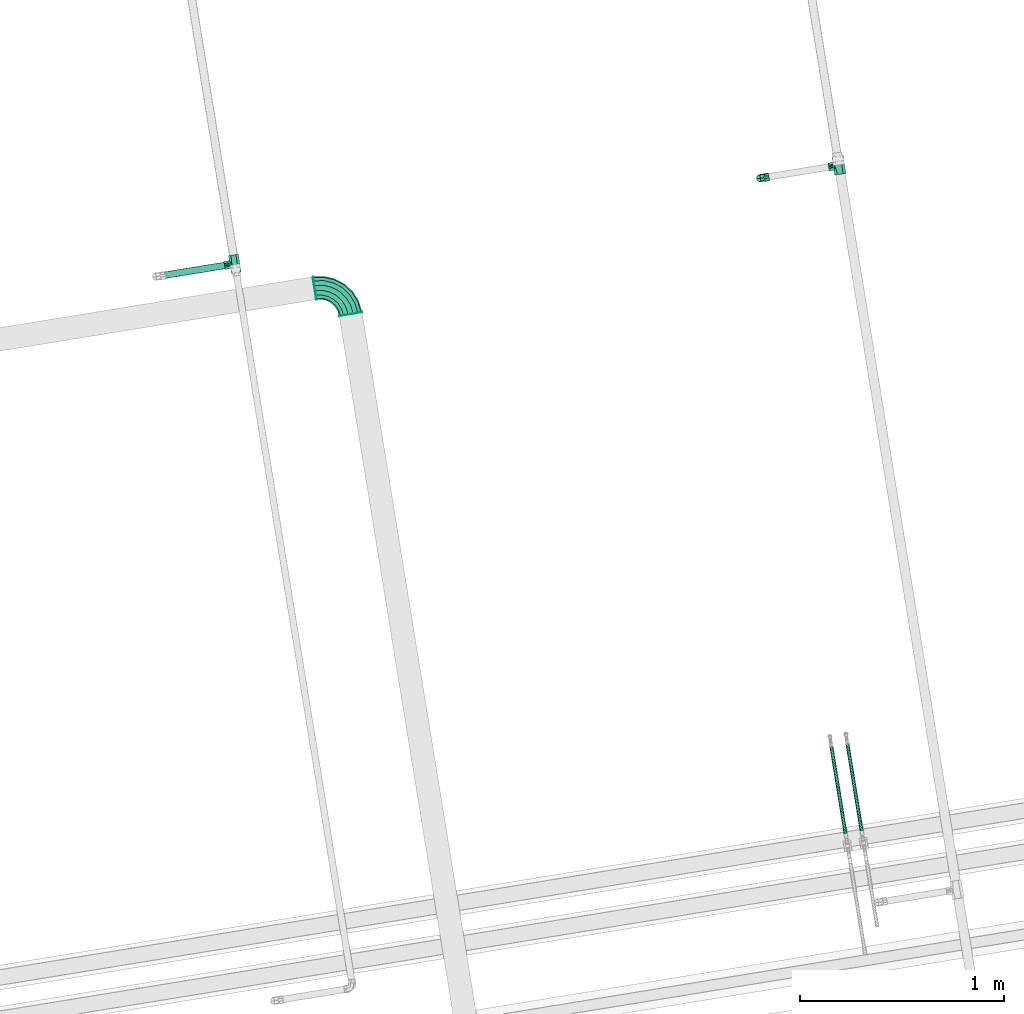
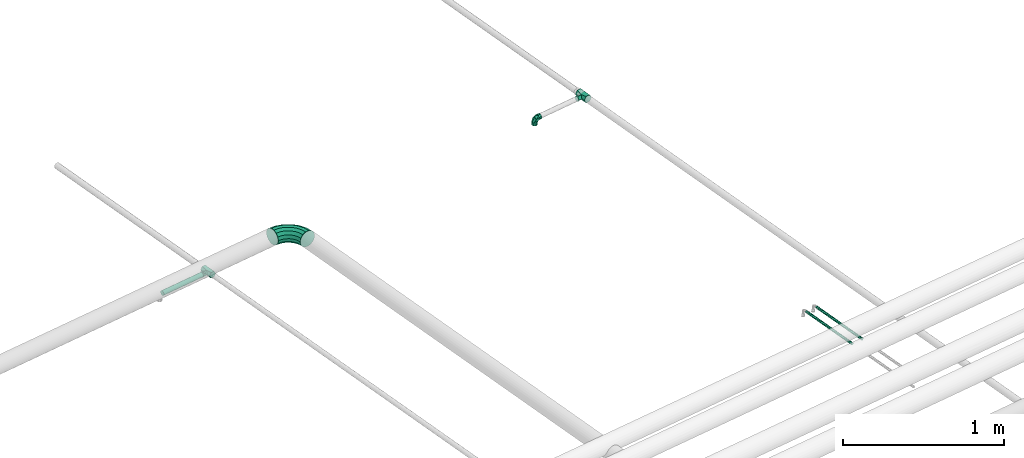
# One storey, part 25 of 56: 6 flow fittings, 3 flow segments.
"""IFC2X3 building model written with IfcOpenShell, lengths in millimetres."""

from ifc_helpers import new_model, entity, si_unit, converted_unit, derived_unit, direction, frame, frame_2d, origin, origin_with_axes, origin_2d_with_axis, place, context, subcontext, project, spatial, circle, extrude, faceted_brep, source, transform, mapped, material, type_object, element, save


model = new_model("IFC2X3")

# Units and contexts
model_context = context("Model", 3, precision=0.01, world=origin(), true_north=direction((6.12323399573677e-17, 1.0)))
plan_context = context("Plan", 3, precision=1e-05, world=origin_with_axes())
body_context = subcontext(model_context, "Body", "Model", "MODEL_VIEW")
ifc_project = project(units=[converted_unit("PLANEANGLEUNIT", "DEGREE", entity("IfcPositiveLengthMeasure", 0.0174532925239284), si_unit("PLANEANGLEUNIT", "RADIAN"), dimensions=[0, 0, 0, 0, 0, 0, 0]), si_unit("AREAUNIT", "SQUARE_METRE"), si_unit("LENGTHUNIT", "METRE", prefix="MILLI"), si_unit("MASSUNIT", "GRAM", prefix="KILO"), si_unit("POWERUNIT", "WATT"), si_unit("PRESSUREUNIT", "PASCAL", prefix="KILO"), si_unit("FORCEUNIT", "NEWTON", prefix="KILO"), si_unit("ELECTRICVOLTAGEUNIT", "VOLT"), si_unit("ELECTRICCURRENTUNIT", "AMPERE"), si_unit("THERMODYNAMICTEMPERATUREUNIT", "DEGREE_CELSIUS"), si_unit("TIMEUNIT", "SECOND"), si_unit("VOLUMEUNIT", "CUBIC_METRE"), derived_unit("LINEARVELOCITYUNIT", [(si_unit("LENGTHUNIT", "METRE"), 1), (si_unit("TIMEUNIT", "SECOND"), -1)]), derived_unit("VOLUMETRICFLOWRATEUNIT", [(si_unit("VOLUMEUNIT", "CUBIC_METRE"), 1), (si_unit("TIMEUNIT", "SECOND"), -1)]), derived_unit("THERMALTRANSMITTANCEUNIT", [(si_unit("POWERUNIT", "WATT"), 1), (si_unit("THERMODYNAMICTEMPERATUREUNIT", "KELVIN"), -1), (si_unit("AREAUNIT", "SQUARE_METRE"), -1)]), derived_unit("SOUNDPRESSUREUNIT", [(si_unit("PRESSUREUNIT", "PASCAL"), 1)])], contexts=[model_context, plan_context])

# Site, building, storey
site_placement = place(None, frame((-3.09682673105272e-06, 1.93776733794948e-05, 0.0), z_axis=(0.0, 0.0, 1.0), x_axis=(-0.160806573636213, 0.986985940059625, 0.0)))
site = spatial("IfcSite", under=ifc_project, at=site_placement, Name="Default", CompositionType="ELEMENT")
building_placement = place(site_placement, frame((0.0, 0.0, 0.0), z_axis=(0.0, 0.0, 1.0), x_axis=(1.0, -2.77555756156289e-17, 0.0)))
building = spatial("IfcBuilding", under=site, at=building_placement, Name="Bygning (endres i Project Information)", CompositionType="ELEMENT")
storey_placement = place(building_placement, frame((0.0, 0.0, 51360.0000000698), z_axis=(0.0, 0.0, 1.0), x_axis=(1.0, -2.77555756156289e-17, 0.0)))
storey = spatial("IfcBuildingStorey", under=building, at=storey_placement, Name="H01-Nivå D+0,36", CompositionType="ELEMENT", Elevation=51360.0000000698)

# Flow fittings
ifc_material_1 = material(Name="3320.001")
pipe_fitting_type_1 = type_object("IfcPipeFittingType", Name="RS_53_PIF_UN_Tee-Reduced-EN10241_MC_gen:RS_53_PIF_UN_Tee-Reduced-EN10241_MC_gen", PredefinedType="NOTDEFINED", material=ifc_material_1)
shared_shape_1 = source(origin(), body_context, "Body", "Brep", [
    faceted_brep([(44.0, -28.0, 0.0), (44.0, -21.0, -12.124355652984), (44.0, -14.0, -24.2487113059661), (44.0, 0.0, -24.2487113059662), (44.0, 14.0, -24.2487113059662), (44.0, 21.0, -12.1243556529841), (44.0, 28.0, 0.0), (44.0, 21.0, 12.1243556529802), (44.0, 14.0, 24.2487113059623), (44.0, 0.0, 24.2487113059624), (44.0, -14.0, 24.2487113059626), (44.0, -21.0, 12.1243556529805), (-44.0, -28.0, 0.0), (-44.0, -21.0, 12.1243556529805), (-44.0, -14.0, 24.2487113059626), (-44.0, 0.0, 24.2487113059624), (-44.0, 14.0, 24.2487113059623), (-44.0, 21.0, 12.1243556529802), (-44.0, 28.0, 0.0), (-44.0, 20.982647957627, -12.1544102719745), (-44.0, 14.0, -24.2487113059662), (-44.0, 0.0, -24.2487113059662), (-44.0, -14.0, -24.2487113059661), (-44.0, -21.0, -12.124355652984), (3.55028427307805, -20.1628871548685, 19.4282778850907), (11.6501421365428, -24.0814435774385, 9.71413894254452), (-19.7499999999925, -28.0, 0.0), (-8.09985786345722, -24.0814435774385, 9.71413894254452), (19.7500000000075, -28.0, 0.0), (-11.6531711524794, -24.0819773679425, -9.71358493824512), (-3.55634230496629, -20.1639547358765, -19.4271698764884), (8.0968288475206, -24.0819773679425, -9.71358493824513), (9.87500000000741, -52.0, -17.1040017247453), (14.8125000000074, -52.0, -8.55200086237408), (19.7500000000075, -52.0, 0.0), (14.8125000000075, -52.0, 8.55200086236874), (9.87500000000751, -52.0, 17.1040017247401), (0.0, -52.0, 17.1040017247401), (-9.87499999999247, -52.0, 17.1040017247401), (-14.8124999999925, -52.0, 8.55200086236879), (-19.7499999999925, -52.0, 0.0), (-14.8124999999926, -52.0, -8.55200086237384), (-9.87499999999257, -52.0, -17.1040017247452), (0.0, -52.0, -17.1040017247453)], [[[0, 1, 2, 3, 4, 5, 6, 7, 8, 9, 10, 11]], [[12, 13, 14, 15, 16, 17, 18, 19, 20, 21, 22, 23]], [[7, 6, 18, 17, 16, 8]], [[8, 16, 15, 9]], [[15, 14, 24]], [[11, 24, 25]], [[24, 9, 15]], [[12, 26, 13]], [[13, 26, 27, 24]], [[0, 11, 25]], [[0, 25, 28]], [[24, 14, 13]], [[24, 11, 10]], [[9, 24, 10]], [[19, 18, 6, 5, 4, 20]], [[23, 29, 12]], [[30, 1, 28, 31]], [[23, 30, 29]], [[12, 29, 26]], [[1, 0, 28]], [[23, 22, 30]], [[21, 20, 4, 3]], [[30, 21, 3]], [[30, 3, 2]], [[30, 2, 1]], [[21, 30, 22]], [[32, 33, 34, 35, 36, 37, 38, 39, 40, 41, 42, 43]], [[26, 41, 40]], [[29, 42, 41]], [[31, 43, 30]], [[32, 31, 33]], [[30, 42, 29]], [[28, 33, 31]], [[31, 32, 43]], [[34, 33, 28]], [[43, 42, 30]], [[26, 29, 41]], [[28, 35, 34]], [[25, 36, 35]], [[27, 37, 24]], [[38, 27, 39]], [[24, 36, 25]], [[26, 39, 27]], [[27, 38, 37]], [[40, 39, 26]], [[37, 36, 24]], [[28, 25, 35]]]),
])
flow_fitting_1_placement = place(storey_placement, frame((1015158.93557438, -392336.905112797, 3200.0), z_axis=(0.0, 0.0, 1.0), x_axis=(-1.0, 2.77555756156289e-17, 0.0)))
element("IfcFlowFitting", 1, at=flow_fitting_1_placement, inside=storey, type_object=pipe_fitting_type_1, material=ifc_material_1, Name="RS_53_PIF_UN_Tee-Reduced-EN10241_MC_gen:RS_53_PIF_UN_Tee-Reduced-EN10241_MC_gen", ObjectType="RS_53_PIF_UN_Tee-Reduced-EN10241_MC_gen:RS_53_PIF_UN_Tee-Reduced-EN10241_MC_gen", context=body_context, shape_type="MappedRepresentation", body=[
    mapped(shared_shape_1, transform((0.0, 0.0, 0.0), scale=1.0)),
])
pipe_fitting_type_2 = type_object("IfcPipeFittingType", Name="RS_53_PIF_UN_Elbow-EN10241_NOR:RS_53_PIF_UN_Elbow-EN10241_NOR", PredefinedType="NOTDEFINED", material=ifc_material_1)
shared_shape_2 = source(origin(), body_context, "Body", "Brep", [
    faceted_brep([(-43.0, 5.11167614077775, 19.0770350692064), (-43.0, 17.1040017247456, 9.87499999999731), (-43.0, 19.7500000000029, 0.0), (-43.0, 17.1040017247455, -9.87500000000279), (-43.0, 5.11167614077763, -19.0770350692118), (-43.0, -5.11167614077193, -19.0770350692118), (-43.0, -17.1040017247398, -9.87500000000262), (-43.0, -19.7499999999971, 0.0), (-43.0, -17.1040017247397, 9.87499999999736), (-43.0, -5.11167614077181, 19.0770350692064), (-21.7499999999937, -19.7499999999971, 0.0), (-21.7499999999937, -15.1293510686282, -12.6950870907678), (-21.7499999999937, -3.42946974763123, -19.4499675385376), (-21.7499999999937, 15.1294711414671, -12.694943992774), (-21.7499999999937, 19.7500000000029, 0.0), (-21.7499999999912, 5.85000069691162, -16.072455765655), (-21.7499999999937, 15.1294711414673, 12.6949439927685), (-21.7499999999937, 3.42965371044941, 19.4499351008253), (-21.7499999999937, -15.1293510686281, 12.6950870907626), (-5.41688095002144, -10.3200693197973, 0.0), (0.655979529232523, -2.00253561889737, 16.4678355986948), (-11.0449015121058, 9.84579831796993, 18.897380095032), (-18.5589216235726, 21.7499999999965, 6.75491881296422), (-15.1293490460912, 21.7499999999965, 12.6950895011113), (-20.3357864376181, 20.3357864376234, 0.0), (-19.7499999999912, 21.7499999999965, 0.0), (14.190054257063, 1.0, 0.0), (12.6950125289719, 21.7499999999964, 15.1294136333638), (6.75482439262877, 21.7499999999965, 18.5589559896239), (17.2232575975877, 12.3200689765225, 0.0), (-6.754824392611, 21.7499999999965, 18.558955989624), (19.7500000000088, 21.7499999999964, 0.0), (18.5589216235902, 21.7499999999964, 6.75491881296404), (0.0, 21.7499999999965, 19.7499999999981), (-18.5589216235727, 21.7499999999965, -6.75491881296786), (-10.1618436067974, 10.1618877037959, -19.0082217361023), (1.2569166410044, -0.890945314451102, -16.7093898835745), (0.0, 21.7499999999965, -19.7500000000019), (-6.75482439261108, 21.7499999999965, -18.5589559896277), (-12.6950125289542, 21.7499999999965, -15.1294136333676), (18.5589216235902, 21.7499999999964, -6.75491881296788), (15.1293490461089, 21.7499999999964, -12.6950895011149), (6.75482439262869, 21.7499999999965, -18.5589559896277), (-9.8749999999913, 43.0, 17.1040017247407), (0.0, 43.0, 19.7499999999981), (9.8750000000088, 43.0, 17.1040017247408), (19.0770350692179, 43.0, 5.11167614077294), (19.0770350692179, 43.0, -5.11167614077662), (9.87500000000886, 43.0, -17.1040017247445), (0.0, 43.0, -19.7500000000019), (-9.87499999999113, 43.0, -17.1040017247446), (-19.0770350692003, 43.0, -5.11167614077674), (-19.0770350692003, 43.0, 5.11167614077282)], [[[0, 1, 2, 3, 4, 5, 6, 7, 8, 9]], [[7, 6, 10]], [[6, 11, 10]], [[11, 6, 5]], [[11, 5, 12]], [[13, 4, 3]], [[14, 3, 2]], [[4, 13, 15, 12]], [[13, 3, 14]], [[4, 12, 5]], [[2, 1, 14]], [[1, 16, 14]], [[16, 1, 0]], [[16, 0, 17]], [[18, 9, 8]], [[10, 8, 7]], [[9, 18, 17]], [[18, 8, 10]], [[9, 17, 0]], [[18, 19, 20]], [[20, 21, 17]], [[22, 16, 23]], [[16, 17, 21]], [[24, 14, 22]], [[22, 25, 24]], [[14, 16, 22]], [[20, 26, 27]], [[27, 28, 20]], [[26, 29, 27]], [[23, 21, 30]], [[31, 32, 29]], [[18, 20, 17]], [[26, 20, 19]], [[21, 23, 16]], [[18, 10, 19]], [[33, 21, 20]], [[33, 30, 21]], [[27, 29, 32]], [[33, 20, 28]], [[14, 24, 34]], [[25, 34, 24]], [[12, 35, 36]], [[14, 34, 13]], [[36, 19, 11]], [[37, 35, 38]], [[38, 35, 39]], [[10, 11, 19]], [[34, 39, 13]], [[37, 36, 35]], [[36, 11, 12]], [[39, 35, 13]], [[40, 31, 29]], [[41, 36, 42]], [[36, 37, 42]], [[41, 40, 29]], [[26, 36, 41]], [[29, 26, 41]], [[19, 36, 26]], [[13, 35, 12, 15]], [[43, 44, 45, 46, 47, 48, 49, 50, 51, 52]], [[49, 37, 38]], [[50, 38, 39]], [[49, 38, 50]], [[51, 50, 39]], [[51, 34, 25]], [[34, 51, 39]], [[52, 25, 22]], [[22, 23, 52]], [[30, 43, 23]], [[52, 23, 43]], [[44, 43, 30]], [[33, 44, 30]], [[25, 52, 51]], [[44, 33, 28]], [[45, 28, 27]], [[44, 28, 45]], [[46, 45, 27]], [[46, 32, 31]], [[32, 46, 27]], [[47, 31, 40]], [[40, 41, 47]], [[42, 48, 41]], [[47, 41, 48]], [[49, 48, 42]], [[37, 49, 42]], [[31, 47, 46]]]),
])
flow_fitting_2_placement = place(storey_placement, frame((1015158.93557438, -391946.491159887, 3200.0), z_axis=(1.0, -2.77555756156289e-17, 0.0), x_axis=(0.0, 0.0, 1.0)))
element("IfcFlowFitting", 2, at=flow_fitting_2_placement, inside=storey, type_object=pipe_fitting_type_2, material=ifc_material_1, Name="RS_53_PIF_UN_Elbow-EN10241_NOR:RS_53_PIF_UN_Elbow-EN10241_NOR", ObjectType="RS_53_PIF_UN_Elbow-EN10241_NOR:RS_53_PIF_UN_Elbow-EN10241_NOR", context=body_context, shape_type="MappedRepresentation", body=[
    mapped(shared_shape_2, transform((0.0, 0.0, 0.0), scale=1.0)),
])
pipe_fitting_type_3 = type_object("IfcPipeFittingType", Name="Bend sveist:EN 10253-1 S235 3D ISO", PredefinedType="NOTDEFINED", material=ifc_material_1)
shared_shape_3 = source(origin(), body_context, "Body", "Brep", [
    faceted_brep([(-98.6091776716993, -49.9893123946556, 0.0), (-100.073997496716, -44.5225303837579, 24.7964556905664), (-153.0, -51.4903708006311, 24.7964556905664), (-153.0, -57.1500000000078, 0.0), (-104.178331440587, -29.2049475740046, 44.6816692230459), (-153.0, -35.6324421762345, 44.6816692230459), (-110.109265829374, -7.07039909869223, 55.7171301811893), (-153.0, -12.7170713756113, 55.7171301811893), (-116.692106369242, 17.4970962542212, 55.7171301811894), (-153.0, 12.7170713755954, 55.7171301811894), (-122.62304075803, 39.6316447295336, 44.6816692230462), (-153.0, 35.6324421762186, 44.6816692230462), (-126.7273747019, 54.9492275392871, 24.7964556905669), (-153.0, 51.4903708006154, 24.7964556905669), (-128.192194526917, 60.416009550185, 0.0), (-153.0, 57.1499999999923, 0.0), (-126.7273747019, 54.9492275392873, -24.7964556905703), (-153.0, 51.4903708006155, -24.7964556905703), (-122.62304075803, 39.6316447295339, -44.6816692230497), (-153.0, 35.6324421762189, -44.6816692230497), (-116.692106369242, 17.4970962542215, -55.7171301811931), (-153.0, 12.7170713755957, -55.7171301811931), (-110.109265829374, -7.07039909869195, -55.7171301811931), (-153.0, -12.717071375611, -55.7171301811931), (-104.178331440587, -29.2049475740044, -44.6816692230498), (-153.0, -35.6324421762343, -44.6816692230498), (-100.073997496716, -44.5225303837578, -24.7964556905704), (-153.0, -51.4903708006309, -24.7964556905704), (-47.924999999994, -28.9952386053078, 0.0), (-50.7548145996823, -24.0938559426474, 24.7964556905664), (-58.6837789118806, -10.3604869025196, 44.6816692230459), (-70.1414643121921, 9.48480634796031, 55.7171301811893), (-82.8585356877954, 31.5114200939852, 55.7171301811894), (-94.316221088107, 51.3567133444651, 44.6816692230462), (-102.245185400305, 65.0900823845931, 24.7964556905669), (-105.074999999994, 69.9914650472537, 0.0), (-102.245185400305, 65.0900823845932, -24.7964556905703), (-94.3162210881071, 51.3567133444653, -44.6816692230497), (-82.8585356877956, 31.5114200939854, -55.7171301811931), (-70.1414643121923, 9.48480634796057, -55.7171301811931), (-58.6837789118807, -10.3604869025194, -44.6816692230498), (-50.7548145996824, -24.0938559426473, -24.7964556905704), (-4.40150993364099, 4.40150993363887, 0.0), (-8.40347211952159, 8.40347211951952, 24.7964556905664), (-19.6167209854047, 19.6167209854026, 44.6816692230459), (-35.8203350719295, 35.8203350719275, 55.7171301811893), (-53.8049898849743, 53.8049898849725, 55.7171301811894), (-70.0086039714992, 70.0086039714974, 44.6816692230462), (-81.2218528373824, 81.2218528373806, 24.7964556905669), (-85.2238150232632, 85.2238150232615, 0.0), (-81.2218528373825, 81.2218528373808, -24.7964556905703), (-70.0086039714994, 70.0086039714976, -44.6816692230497), (-53.8049898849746, 53.8049898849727, -55.7171301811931), (-35.8203350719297, 35.8203350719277, -55.7171301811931), (-19.6167209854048, 19.6167209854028, -44.6816692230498), (-8.4034721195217, 8.40347211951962, -24.7964556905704), (28.9952386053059, 47.9249999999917, 0.0), (24.0938559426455, 50.7548145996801, 24.7964556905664), (10.3604869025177, 58.6837789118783, 44.6816692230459), (-9.4848063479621, 70.14146431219, 55.7171301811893), (-31.5114200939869, 82.8585356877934, 55.7171301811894), (-51.3567133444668, 94.3162210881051, 44.6816692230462), (-65.0900823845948, 102.245185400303, 24.7964556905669), (-69.9914650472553, 105.074999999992, 0.0), (-65.0900823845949, 102.245185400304, -24.7964556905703), (-51.356713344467, 94.3162210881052, -44.6816692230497), (-31.5114200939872, 82.8585356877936, -55.7171301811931), (-9.48480634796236, 70.1414643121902, -55.7171301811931), (10.3604869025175, 58.6837789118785, -44.6816692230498), (24.0938559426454, 50.7548145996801, -24.7964556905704), (49.989312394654, 98.6091776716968, 0.0), (44.5225303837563, 100.073997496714, 24.7964556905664), (29.204947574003, 104.178331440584, 44.6816692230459), (7.07039909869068, 110.109265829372, 55.7171301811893), (-17.4970962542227, 116.69210636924, 55.7171301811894), (-39.6316447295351, 122.623040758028, 44.6816692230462), (-54.9492275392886, 126.727374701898, 24.7964556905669), (-60.4160095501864, 128.192194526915, 0.0), (-54.9492275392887, 126.727374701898, -24.7964556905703), (-39.6316447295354, 122.623040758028, -44.6816692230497), (-17.497096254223, 116.69210636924, -55.7171301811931), (7.07039909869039, 110.109265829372, -55.7171301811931), (29.2049475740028, 104.178331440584, -44.6816692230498), (44.5225303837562, 100.073997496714, -24.7964556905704), (57.1500000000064, 153.0, 0.0), (51.4903708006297, 153.0, 24.7964556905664), (35.6324421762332, 153.0, 44.6816692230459), (12.71707137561, 153.0, 55.7171301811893), (-12.7170713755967, 153.0, 55.7171301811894), (-35.63244217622, 153.0, 44.6816692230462), (-51.4903708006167, 153.0, 24.7964556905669), (-57.1499999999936, 153.0, 0.0), (-51.4903708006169, 153.0, -24.7964556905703), (-35.6324421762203, 153.0, -44.6816692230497), (-12.717071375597, 153.0, -55.7171301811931), (12.7170713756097, 153.0, -55.7171301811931), (35.6324421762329, 153.0, -44.6816692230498), (51.4903708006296, 153.0, -24.7964556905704)], [[[0, 1, 2, 3]], [[1, 4, 5, 2]], [[4, 6, 7, 5]], [[6, 8, 9, 7]], [[8, 10, 11, 9]], [[10, 12, 13, 11]], [[12, 14, 15, 13]], [[14, 16, 17, 15]], [[16, 18, 19, 17]], [[18, 20, 21, 19]], [[20, 22, 23, 21]], [[22, 24, 25, 23]], [[24, 26, 27, 25]], [[26, 0, 3, 27]], [[28, 29, 1, 0]], [[29, 30, 4, 1]], [[30, 31, 6, 4]], [[31, 32, 8, 6]], [[32, 33, 10, 8]], [[33, 34, 12, 10]], [[34, 35, 14, 12]], [[35, 36, 16, 14]], [[36, 37, 18, 16]], [[37, 38, 20, 18]], [[38, 39, 22, 20]], [[39, 40, 24, 22]], [[40, 41, 26, 24]], [[41, 28, 0, 26]], [[42, 43, 29, 28]], [[43, 44, 30, 29]], [[44, 45, 31, 30]], [[45, 46, 32, 31]], [[46, 47, 33, 32]], [[47, 48, 34, 33]], [[48, 49, 35, 34]], [[49, 50, 36, 35]], [[50, 51, 37, 36]], [[51, 52, 38, 37]], [[52, 53, 39, 38]], [[53, 54, 40, 39]], [[54, 55, 41, 40]], [[55, 42, 28, 41]], [[56, 57, 43, 42]], [[57, 58, 44, 43]], [[58, 59, 45, 44]], [[59, 60, 46, 45]], [[60, 61, 47, 46]], [[61, 62, 48, 47]], [[62, 63, 49, 48]], [[63, 64, 50, 49]], [[64, 65, 51, 50]], [[65, 66, 52, 51]], [[66, 67, 53, 52]], [[67, 68, 54, 53]], [[68, 69, 55, 54]], [[69, 56, 42, 55]], [[70, 71, 57, 56]], [[71, 72, 58, 57]], [[72, 73, 59, 58]], [[73, 74, 60, 59]], [[74, 75, 61, 60]], [[75, 76, 62, 61]], [[76, 77, 63, 62]], [[77, 78, 64, 63]], [[78, 79, 65, 64]], [[79, 80, 66, 65]], [[80, 81, 67, 66]], [[81, 82, 68, 67]], [[82, 83, 69, 68]], [[83, 70, 56, 69]], [[84, 85, 71, 70]], [[85, 86, 72, 71]], [[86, 87, 73, 72]], [[87, 88, 74, 73]], [[88, 89, 75, 74]], [[89, 90, 76, 75]], [[90, 91, 77, 76]], [[91, 92, 78, 77]], [[92, 93, 79, 78]], [[93, 94, 80, 79]], [[94, 95, 81, 80]], [[95, 96, 82, 81]], [[96, 97, 83, 82]], [[97, 84, 70, 83]], [[3, 2, 5, 7, 9, 11, 13, 15, 17, 19, 21, 23, 25, 27]], [[97, 96, 95, 94, 93, 92, 91, 90, 89, 88, 87, 86, 85, 84]]]),
])
flow_fitting_3_placement = place(storey_placement, frame((1014978.2702348, -389854.90511076, 3400.0), z_axis=(0.0, 0.0, 1.0), x_axis=(1.0, -2.77555756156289e-17, 0.0)))
element("IfcFlowFitting", 3, at=flow_fitting_3_placement, inside=storey, type_object=pipe_fitting_type_3, material=ifc_material_1, Name="Bend sveist:EN 10253-1 S235 3D ISO", ObjectType="Bend sveist:EN 10253-1 S235 3D ISO", context=body_context, shape_type="MappedRepresentation", body=[
    mapped(shared_shape_3, transform((0.0, 0.0, 0.0), scale=1.0)),
])
ifc_material_2 = material(Name="<Unnamed>")
pipe_fitting_type_4 = type_object("IfcPipeFittingType", Name="Sveis:Sveis", PredefinedType="NOTDEFINED", material=ifc_material_2)
shared_shape_4 = source(origin(), body_context, "Body", "SweptSolid", [
    extrude(circle(Radius=57.15, at=frame_2d((-2.60051383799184e-15, -9.23283724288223e-14), x_axis=(1.0, 0.0))), origin(), (0.0, 0.0, 1.0), 2.0),
])
for number, where, z_axis, x_axis in (
    (4, (1014825.2702348, -389854.90511076, 3400.0), (-1.0, 2.77555756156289e-17, 0.0), (-2.77555756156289e-17, -1.0, 0.0)),
    (5, (1014978.2702348, -389701.90511076, 3400.0), (2.77555756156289e-17, 1.0, 0.0), (0.0, 0.0, 1.0)),
):
    element("IfcFlowFitting", number, at=place(storey_placement, frame(where, z_axis=z_axis, x_axis=x_axis)), inside=storey, type_object=pipe_fitting_type_4, material=ifc_material_2, Name="Sveis:Sveis", ObjectType="Sveis:Sveis", context=body_context, shape_type="MappedRepresentation", body=[
        mapped(shared_shape_4, transform((0.0, 0.0, 0.0), scale=1.0)),
    ])
pipe_fitting_type_5 = type_object("IfcPipeFittingType", Name="RS_53_PIF_UN_Tee-Reduced-EN10241_MC_gen:RS_53_PIF_UN_Tee-Reduced-EN10241_MC_gen", PredefinedType="NOTDEFINED", material=ifc_material_1)
shared_shape_5 = source(origin(), body_context, "Body", "Brep", [
    faceted_brep([(44.0, 24.4999999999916, 0.0), (44.0, 18.3749999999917, 10.6088111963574), (44.0, 12.2499999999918, 21.2176223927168), (44.0, 0.0, 21.2176223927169), (44.0, -12.2500000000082, 21.217622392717), (44.0, -18.3750000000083, 10.6088111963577), (44.0, -24.5000000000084, 0.0), (44.0, -21.6281924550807, -4.97411657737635), (44.0, -18.3750000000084, -10.6088111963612), (44.0, -12.2500000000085, -21.2176223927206), (44.0, 0.0, -21.2176223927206), (44.0, 12.2499999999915, -21.2176223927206), (44.0, 18.3749999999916, -10.6088111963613), (-44.0, -12.2500000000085, -21.2176223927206), (-44.0, -18.3750000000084, -10.6088111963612), (-44.0, -24.5000000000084, 0.0), (-44.0, -21.6281923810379, 4.97411670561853), (-44.0, -18.3750000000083, 10.6088111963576), (-44.0, -12.2500000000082, 21.217622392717), (-44.0, 0.0, 21.2176223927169), (-44.0, 12.2499999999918, 21.2176223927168), (-44.0, 18.7563847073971, 9.94823350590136), (-44.0, 24.4999999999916, 0.0), (-44.0, 18.3749999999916, -10.6088111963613), (-44.0, 12.2499999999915, -21.2176223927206), (-44.0, 0.0, -21.2176223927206), (-8.07289668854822, -19.7195683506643, 9.70917342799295), (3.60420662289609, -14.9391367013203, 19.4183468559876), (15.7135516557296, -22.1097841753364, 4.85458671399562), (-19.7499999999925, -24.5000000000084, 0.0), (11.6771033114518, -19.7195683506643, 9.70917342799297), (19.7500000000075, -24.5000000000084, 0.0), (-15.715142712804, -22.1101683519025, -4.85429113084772), (-3.61057085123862, -14.9406734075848, -19.4171645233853), (-11.6802854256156, -19.7203367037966, -9.70858226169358), (8.06971457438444, -19.7203367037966, -9.70858226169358), (9.87500000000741, -51.0, -17.1040017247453), (14.8125000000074, -51.0, -8.55200086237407), (19.7500000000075, -51.0, 0.0), (14.8125000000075, -51.0, 8.55200086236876), (9.87500000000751, -51.0, 17.1040017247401), (0.0, -51.0, 17.1040017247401), (-9.87499999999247, -51.0, 17.1040017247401), (-14.8124999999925, -51.0, 8.55200086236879), (-19.7499999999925, -51.0, 0.0), (-14.8124999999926, -51.0, -8.55200086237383), (-9.87499999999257, -51.0, -17.1040017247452), (0.0, -51.0, -17.1040017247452)], [[[0, 1, 2, 3, 4, 5, 6, 7, 8, 9, 10, 11, 12]], [[13, 14, 15, 16, 17, 18, 19, 20, 21, 22, 23, 24, 25]], [[1, 0, 22, 21, 20, 2]], [[2, 20, 19, 3]], [[26, 17, 16]], [[18, 27, 19]], [[28, 6, 5]], [[29, 16, 15]], [[5, 27, 30, 28]], [[5, 4, 27]], [[27, 17, 26]], [[17, 27, 18]], [[26, 16, 29]], [[6, 28, 31]], [[19, 27, 3]], [[4, 3, 27]], [[32, 15, 14]], [[14, 33, 34, 32]], [[31, 7, 6]], [[35, 8, 7]], [[8, 33, 9]], [[33, 8, 35]], [[15, 32, 29]], [[24, 23, 22, 0, 12, 11]], [[25, 24, 11, 10]], [[14, 13, 33]], [[13, 25, 33]], [[35, 7, 31]], [[10, 33, 25]], [[10, 9, 33]], [[36, 37, 38, 39, 40, 41, 42, 43, 44, 45, 46, 47]], [[29, 45, 44]], [[34, 46, 45]], [[35, 36, 47]], [[33, 46, 34]], [[37, 36, 35]], [[45, 29, 32, 34]], [[31, 37, 35]], [[37, 31, 38]], [[47, 46, 33]], [[35, 47, 33]], [[31, 39, 38]], [[30, 40, 39]], [[26, 42, 41]], [[27, 40, 30]], [[43, 42, 26]], [[39, 31, 28, 30]], [[29, 43, 26]], [[43, 29, 44]], [[41, 40, 27]], [[26, 41, 27]]]),
])
flow_fitting_4_placement = place(storey_placement, frame((1015158.93557438, -389333.90511076, 3200.0), z_axis=(0.0, 0.0, 1.0), x_axis=(-1.0, 2.77555756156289e-17, 0.0)))
element("IfcFlowFitting", 6, at=flow_fitting_4_placement, inside=storey, type_object=pipe_fitting_type_5, material=ifc_material_1, Name="RS_53_PIF_UN_Tee-Reduced-EN10241_MC_gen:RS_53_PIF_UN_Tee-Reduced-EN10241_MC_gen", ObjectType="RS_53_PIF_UN_Tee-Reduced-EN10241_MC_gen:RS_53_PIF_UN_Tee-Reduced-EN10241_MC_gen", context=body_context, shape_type="MappedRepresentation", body=[
    mapped(shared_shape_5, transform((0.0, 0.0, 0.0), scale=1.0)),
])

# Flow segments
pipe_segment_type_1 = type_object("IfcPipeSegmentType", Name="Pipe Types:Stålrør sveist og gjenget", PredefinedType="NOTDEFINED", material=ifc_material_1)
flow_segment_1_placement = place(storey_placement, frame((0.0, 0.0, 0.0), z_axis=(0.0, 0.0, 1.0), x_axis=(1.0, -2.77555756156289e-17, 0.0)))
element("IfcFlowSegment", 7, at=flow_segment_1_placement, inside=storey, type_object=pipe_segment_type_1, Name="Pipe Types:Stålrør sveist og gjenget", ObjectType="Pipe Types:Stålrør sveist og gjenget", context=body_context, shape_type="SweptSolid", body=[
    extrude(circle(Radius=16.8500004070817, at=origin_2d_with_axis()), frame((1015158.93557438, -389302.00511076, 3200.0), z_axis=(0.0, 1.0, 0.0), x_axis=(1.0, 0.0, 0.0)), (0.0, 0.0, 1.0), 334.613952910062),
])
ifc_material_3 = material(Name="3200.005 Tur")
pipe_segment_type_2 = type_object("IfcPipeSegmentType", Name="Pipe Types:Pressfittingssystem MM", PredefinedType="NOTDEFINED", material=ifc_material_3)
flow_segment_2_placement = place(storey_placement, frame((0.0, 0.0, 0.0), z_axis=(0.0, 0.0, 1.0), x_axis=(1.0, -2.77555756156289e-17, 0.0)))
element("IfcFlowSegment", 8, at=flow_segment_2_placement, inside=storey, type_object=pipe_segment_type_2, Name="Pipe Types:Pressfittingssystem MM", ObjectType="Pipe Types:Pressfittingssystem MM", context=body_context, shape_type="SweptSolid", body=[
    extrude(circle(Radius=9.00000001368, at=frame_2d((0.0, -8.66293703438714e-12), x_axis=(1.0, 0.0))), frame((1011918.99429018, -391841.6268451, 3299.99999997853), z_axis=(1.0, 0.0, 0.0), x_axis=(0.0, -1.0, 0.0)), (0.0, 0.0, 1.0), 448.036192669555),
])
flow_segment_3_placement = place(storey_placement, frame((0.0, 0.0, 0.0), z_axis=(0.0, 0.0, 1.0), x_axis=(1.0, -2.77555756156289e-17, 0.0)))
element("IfcFlowSegment", 9, at=flow_segment_3_placement, inside=storey, type_object=pipe_segment_type_2, Name="Pipe Types:Pressfittingssystem MM", ObjectType="Pipe Types:Pressfittingssystem MM", context=body_context, shape_type="SweptSolid", body=[
    extrude(circle(Radius=9.00000001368, at=frame_2d((0.0, -8.66293703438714e-12), x_axis=(1.0, 0.0))), frame((1011918.99429018, -391921.651949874, 3299.99999997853), z_axis=(1.0, 0.0, 0.0), x_axis=(0.0, -1.0, 0.0)), (0.0, 0.0, 1.0), 447.721538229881),
])

save(model, "model.ifc")
